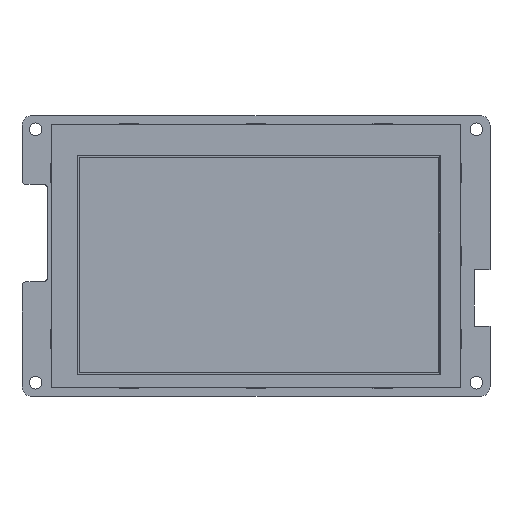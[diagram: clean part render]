
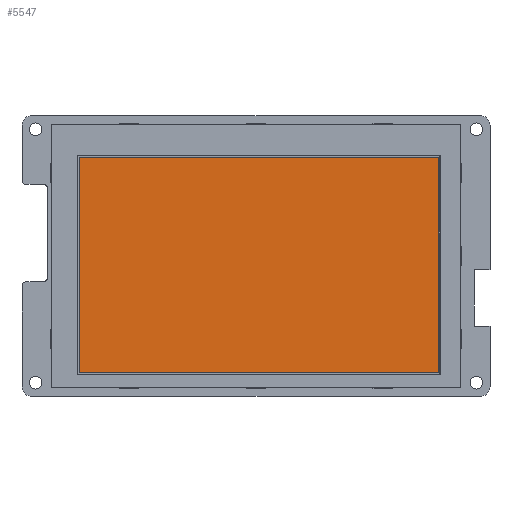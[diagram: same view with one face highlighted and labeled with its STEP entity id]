
A CAD part, front view. The second image highlights one B-rep face of the part: STEP entity #5547.
In plain terms, the highlighted planar face has unit normal (0, -1, 0) as drawn and (0, 1, 0) by its records, which use the part's own axes.
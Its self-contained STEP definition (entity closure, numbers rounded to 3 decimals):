
#5114=DIRECTION('',(0.,0.,1.));
#5115=VECTOR('',#5114,93.6);
#5116=CARTESIAN_POINT('',(-25.71,2.55,-47.52));
#5117=LINE('',#5116,#5115);
#5121=DIRECTION('',(-1.,0.,0.));
#5122=VECTOR('',#5121,56.16);
#5123=CARTESIAN_POINT('',(30.45,2.55,-47.52));
#5124=LINE('',#5123,#5122);
#5128=DIRECTION('',(0.,0.,-1.));
#5129=VECTOR('',#5128,93.6);
#5130=CARTESIAN_POINT('',(30.45,2.55,46.08));
#5131=LINE('',#5130,#5129);
#5135=DIRECTION('',(1.,0.,0.));
#5136=VECTOR('',#5135,56.16);
#5137=CARTESIAN_POINT('',(-25.71,2.55,46.08));
#5138=LINE('',#5137,#5136);
#5158=CARTESIAN_POINT('',(-25.71,2.55,-47.52));
#5159=CARTESIAN_POINT('',(-25.71,2.55,46.08));
#5160=VERTEX_POINT('',#5158);
#5161=VERTEX_POINT('',#5159);
#5162=CARTESIAN_POINT('',(30.45,2.55,46.08));
#5163=VERTEX_POINT('',#5162);
#5164=CARTESIAN_POINT('',(30.45,2.55,-47.52));
#5165=VERTEX_POINT('',#5164);
#5536=CARTESIAN_POINT('',(0.,2.55,0.));
#5537=DIRECTION('',(0.,1.,0.));
#5538=DIRECTION('',(1.,0.,0.));
#5539=AXIS2_PLACEMENT_3D('',#5536,#5537,#5538);
#5540=PLANE('',#5539);
#5541=ORIENTED_EDGE('',*,*,#5488,.F.);
#5542=ORIENTED_EDGE('',*,*,#5503,.F.);
#5543=ORIENTED_EDGE('',*,*,#5517,.F.);
#5544=ORIENTED_EDGE('',*,*,#5530,.F.);
#5545=EDGE_LOOP('',(#5541,#5542,#5543,#5544));
#5546=FACE_OUTER_BOUND('',#5545,.F.);
#5488=EDGE_CURVE('',#5160,#5161,#5117,.T.);
#5503=EDGE_CURVE('',#5165,#5160,#5124,.T.);
#5517=EDGE_CURVE('',#5163,#5165,#5131,.T.);
#5530=EDGE_CURVE('',#5161,#5163,#5138,.T.);
#5547=ADVANCED_FACE('',(#5546),#5540,.T.);
